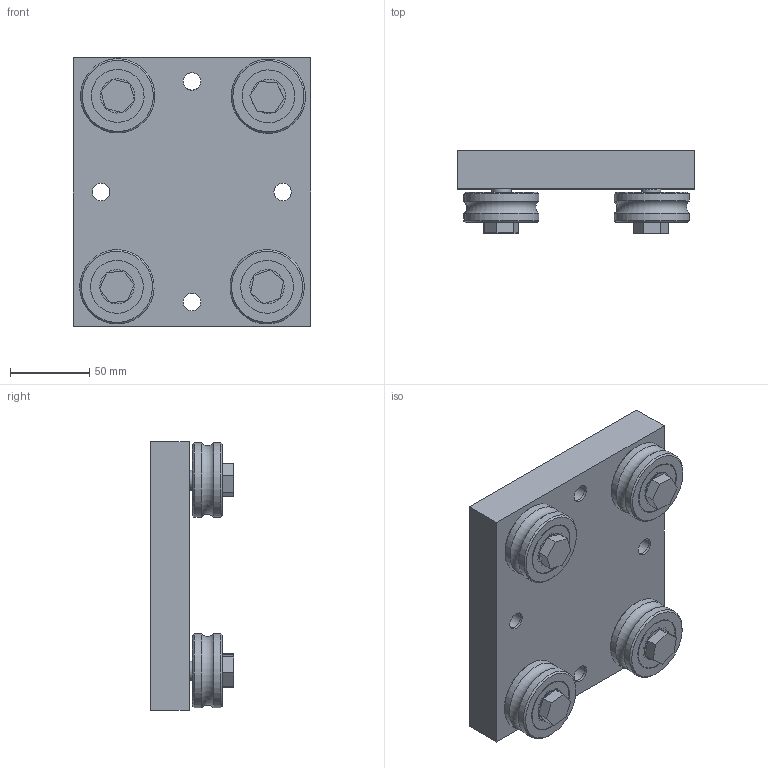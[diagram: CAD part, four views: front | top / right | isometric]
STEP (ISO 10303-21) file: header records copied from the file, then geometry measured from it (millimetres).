
FILE_DESCRIPTION(/* description */ ('Unknown'),/* implementation_level */ '2;1');
FILE_NAME(/* name */ 'HLFL52-SF_mit_LFR5302',/* time_stamp */ '2024-03-20T07:31:21+01:00',/* author */ ('Unknown'),/* organization */ ('Unknown'),/* preprocessor_version */ 'ST-DEVELOPER v16.7',/* originating_system */ 'Solid Edge',/* authorisation */ 'Unknown');
FILE_SCHEMA (('AUTOMOTIVE_DESIGN {1 0 10303 214 3 1 1}'));
Length unit declared in the file: millimetre
Products named in the file (4): HLFL52-SF_mit_LFR5302; Laufwagenplatte_HLF52EE-LFR5302; inafag_lfr5302-10-2z_cwivz66yhizzqjow3yyy82a1t; inafag_lfz15_9zjhzmz0r6ye6vi3c8z9vn3qc
Assembly tree (9 placements, depth 2):
  HLFL52-SF_mit_LFR5302
    Laufwagenplatte_HLF52EE-LFR5302
    inafag_lfr5302-10-2z_cwivz66yhizzqjow3yyy82a1t  x4
    inafag_lfz15_9zjhzmz0r6ye6vi3c8z9vn3qc  x4
Bounding box: 150 x 52.57 x 170 mm (x, y, z)
Volume: 727660.2 mm3; surface area: 147919.6 mm2
Topology: 65 solids, 65 shells, 422 faces, 888 edges, 580 vertices
Faces by surface type: plane 174, cylinder 172, sphere 32, torus 28, cone 16
Full cylindrical faces by diameter (mm): 11 x8, 11.1 x8, 12 x4, 15 x8, 15.002 x4, 21 x4, 21.2 x16, 21.7 x16, 23.6 x12, 25.7 x8, 31.3 x8, 33.4 x20, 33.9 x16, 47 x8
Entity records: 3528 total; most frequent: CARTESIAN_POINT 816, DIRECTION 546, ORIENTED_EDGE 364, AXIS2_PLACEMENT_3D 250, FACE_BOUND 234, EDGE_LOOP 226, EDGE_CURVE 182, VERTEX_POINT 164
